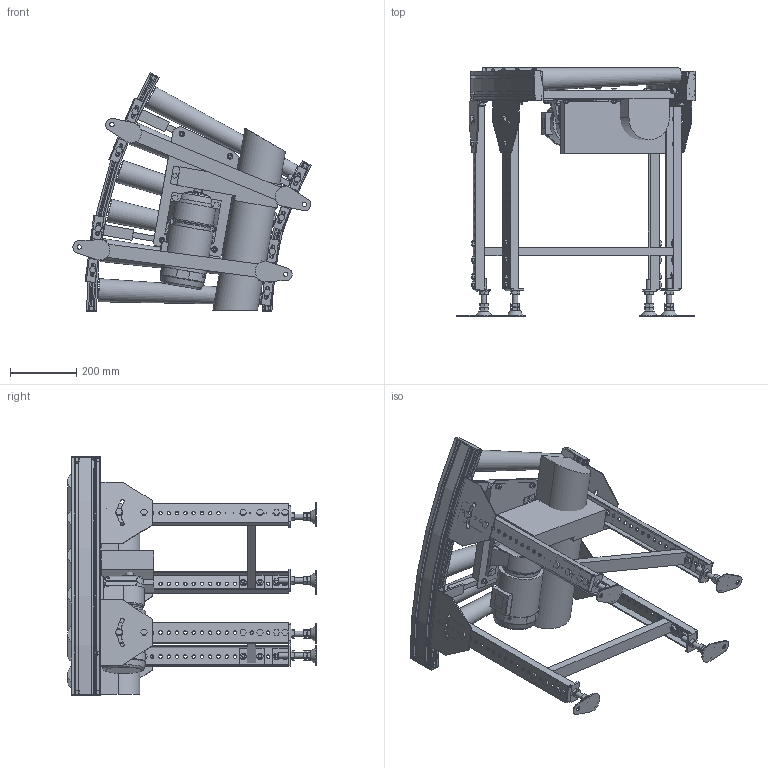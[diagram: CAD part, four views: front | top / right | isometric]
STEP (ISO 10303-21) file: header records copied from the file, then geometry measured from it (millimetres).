
FILE_DESCRIPTION( (''), '2;1');
FILE_NAME ('WEB-MCD1-50-500-100-30°-C9.stp','2026-06-19T10:58:33',(''),(''),'spGate 21.9.5 (****-****-****-****)','','');
FILE_SCHEMA (('AUTOMOTIVE_DESIGN'));
Length unit declared in the file: millimetre
Products named in the file (28): WEB-MCD1-50-500-100-30_-C9; TEMP_X_T-prt0; TEMP_X_T-prt1; TEMP_X_T-prt2; TEMP_X_T-prt3; TEMP_X_T-prt4; TEMP_X_T-prt5; TEMP_X_T-prt6; TEMP_X_T-prt7; TEMP_X_T-prt8; TEMP_X_T-prt9; TEMP_X_T-prt10; TEMP_X_T-prt11; TEMP_X_T-prt12; TEMP_X_T-prt13; TEMP_X_T-prt14; TEMP_X_T-prt15; TEMP_X_T-prt16; TEMP_X_T-prt17; TEMP_X_T-prt18; TEMP_X_T-prt19; TEMP_X_T-prt20; TEMP_X_T-prt21; TEMP_X_T-prt22; TEMP_X_T-prt23; TEMP_X_T-prt24; TEMP_X_T-prt25; TEMP_X_T-prt26
Assembly tree (27 placements, depth 2):
  WEB-MCD1-50-500-100-30_-C9
    TEMP_X_T-prt0
    TEMP_X_T-prt1
    TEMP_X_T-prt2
    TEMP_X_T-prt3
    TEMP_X_T-prt4
    TEMP_X_T-prt5
    TEMP_X_T-prt6
    TEMP_X_T-prt7
    TEMP_X_T-prt8
    TEMP_X_T-prt9
    TEMP_X_T-prt10
    TEMP_X_T-prt11
    TEMP_X_T-prt12
    TEMP_X_T-prt13
    TEMP_X_T-prt14
    TEMP_X_T-prt15
    TEMP_X_T-prt16
    TEMP_X_T-prt17
    TEMP_X_T-prt18
    TEMP_X_T-prt19
    TEMP_X_T-prt20
    TEMP_X_T-prt21
    TEMP_X_T-prt22
    TEMP_X_T-prt23
    TEMP_X_T-prt24
    TEMP_X_T-prt25
    TEMP_X_T-prt26
Bounding box: 719.01 x 750 x 720.6 mm (x, y, z)
Volume: 29773003 mm3; surface area: 3022016.4 mm2
Topology: 27 solids, 55 shells, 2224 faces, 5492 edges, 3574 vertices
Faces by surface type: plane 1807, cylinder 388, bspline 29
Full cylindrical faces by diameter (mm): 6 x1, 8 x16, 10 x32, 10.2 x8, 10.5 x80, 11 x4, 12 x13, 12.2 x2, 12.5 x2, 13 x4, 15.4 x8, 16 x18, 17 x8, 18.4 x28, 18.5 x8, 21 x8, 24 x1, 28 x1, 56 x1, 113.2 x1, 125 x1, 135.411 x1
Entity records: 112635 total; most frequent: CARTESIAN_POINT 13145, DIRECTION 11250, ORIENTED_EDGE 10982, COLOUR_RGB 7742, PRESENTATION_STYLE_ASSIGNMENT 7742, STYLED_ITEM 7742, EDGE_CURVE 5491, DRAUGHTING_PRE_DEFINED_CURVE_FONT 5491
